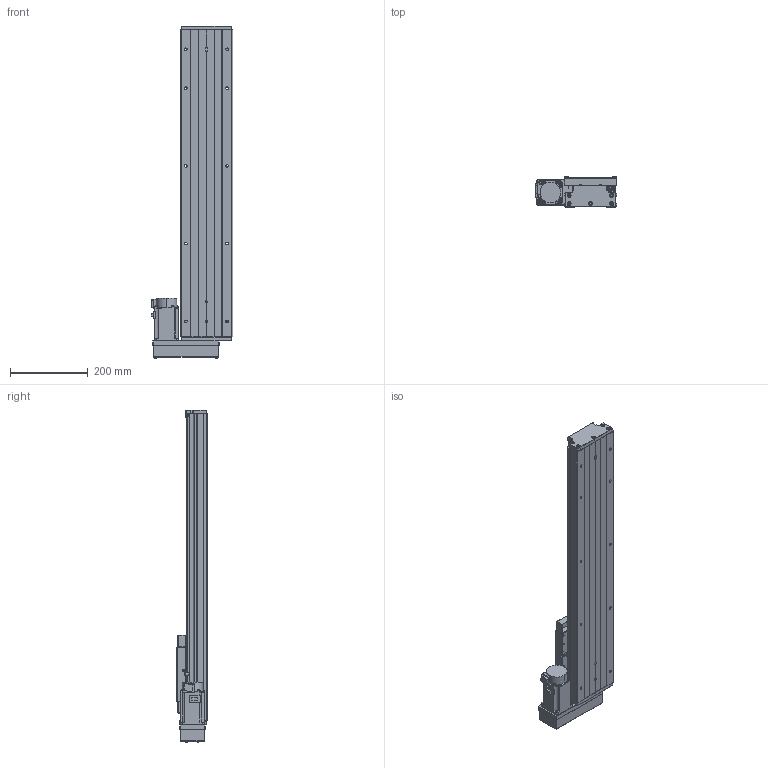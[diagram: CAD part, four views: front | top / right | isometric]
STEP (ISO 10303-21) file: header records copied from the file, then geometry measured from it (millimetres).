
FILE_DESCRIPTION (( 'STEP AP203' ), '1' );
FILE_NAME ('GTH14-550-BL-M40-C4.step', '2023-06-30T08:40:28', ( '微软用户' ), ( '微软中国' ), 'SwSTEP 2.0', 'SolidWorks 2020', '' );
FILE_SCHEMA (( 'CONFIG_CONTROL_DESIGN' ));
Length unit declared in the file: millimetre
Products named in the file (19): GTH14-550-BL-M40-C4; GBT70.1 M5℅16; GBT 70.2-M3¡Á5_M3¡Á6; CTHA60-017; す晦芛蹟隊 M3℅5; GTH14-001_550; EE_SX911P_R; HG-KN43J-S100; GTH14-002_GTH14-002; CTHA60-016; GBT 70.2-M4¡Á35_M4¡Á35; GTH14-004; GBT 70.1-M3℅5; GTH14-015-2_CTHA86-015-2; GTH14-005; GBT77-2000 M3×3; GTH14-033; GB1155-6X6; GTH14-031
Assembly tree (58 placements, depth 2):
  GTH14-550-BL-M40-C4
    GTH14-001_550
    GTH14-002_GTH14-002
    GTH14-004
    GTH14-005
    GB1155-6X6  x2
    GBT70.1 M5℅16  x10
    CTHA60-017  x3
    EE_SX911P_R  x3
    CTHA60-016  x2
    GBT 70.1-M3℅5  x6
    GBT77-2000 M3×3  x6
    GTH14-031
    GBT 70.2-M3¡Á5_M3¡Á6  x8
    す晦芛蹟隊 M3℅5  x6
    HG-KN43J-S100
    GBT 70.2-M4¡Á35_M4¡Á35  x4
    GTH14-015-2_CTHA86-015-2
    GTH14-033
Bounding box: 209.3 x 78 x 854.2 mm (x, y, z)
Volume: 4804732.7 mm3; surface area: 824881 mm2
Topology: 61 solids, 61 shells, 2453 faces, 5833 edges, 3594 vertices
Faces by surface type: plane 1307, cylinder 656, cone 314, torus 124, sphere 32, bspline 20
Entity records: 44158 total; most frequent: CARTESIAN_POINT 9857, DIRECTION 6489, ORIENTED_EDGE 6356, EDGE_CURVE 3178, AXIS2_PLACEMENT_3D 2218, VECTOR 2053, LINE 2053, VERTEX_POINT 2012
